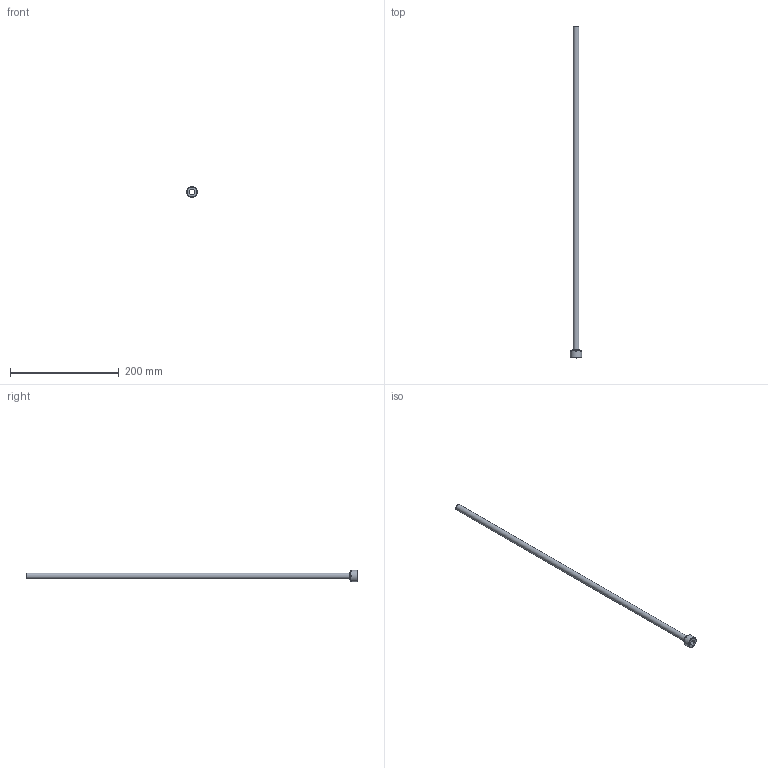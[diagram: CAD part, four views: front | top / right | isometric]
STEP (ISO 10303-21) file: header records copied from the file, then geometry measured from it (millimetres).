
FILE_DESCRIPTION(/* description */ (''),/* implementation_level */ '2;1');
FILE_NAME(/* name */ 'C:/Users/drich/Desktop/PT12-437-24 v1.step',/* time_stamp */ '2019-12-27T14:56:21-06:00',/* author */ (''),/* organization */ (''),/* preprocessor_version */ 'ST-DEVELOPER v18',/* originating_system */ 'Autodesk Translation Framework v8.12.0.6',/* authorisation */ '');
FILE_SCHEMA (('AUTOMOTIVE_DESIGN { 1 0 10303 214 3 1 1 }'));
Length unit declared in the file: inch
Products named in the file (1): PT12-437-24
Bounding box: 20.81 x 609.6 x 20.81 mm (x, y, z)
Volume: 10978.8 mm3; surface area: 40960.8 mm2
Topology: 1 solids, 1 shells, 30 faces, 71 edges, 45 vertices
Faces by surface type: plane 22, cylinder 4, torus 2, cone 2
Full cylindrical faces by diameter (mm): 10.084 x1, 10.846 x1, 13.868 x1, 20.813 x1
Entity records: 913 total; most frequent: DIRECTION 168, CARTESIAN_POINT 147, ORIENTED_EDGE 142, EDGE_CURVE 71, AXIS2_PLACEMENT_3D 66, VERTEX_POINT 45, LINE 36, VECTOR 36
